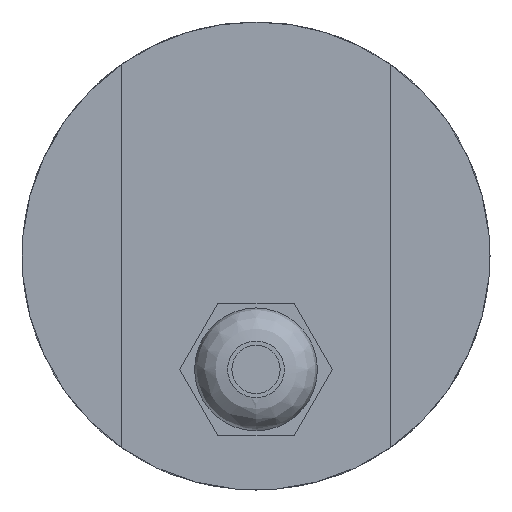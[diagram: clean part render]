
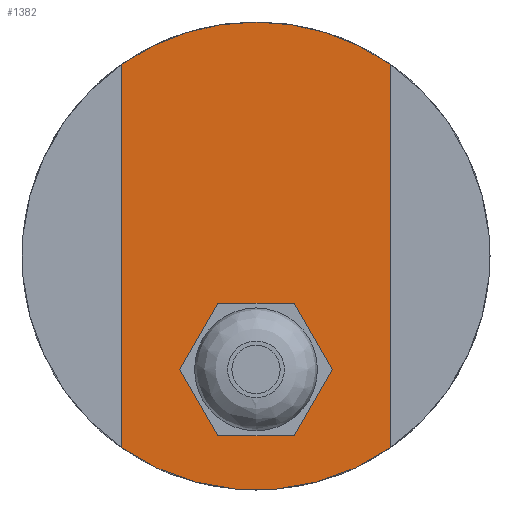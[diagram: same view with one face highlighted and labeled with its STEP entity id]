
A CAD part, left-side view. The second image highlights one B-rep face of the part: STEP entity #1382.
In plain terms, the highlighted planar face has unit normal (-1, 0, 0).
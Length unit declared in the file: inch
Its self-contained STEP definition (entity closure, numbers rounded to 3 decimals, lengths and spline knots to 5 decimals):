
#51=FACE_BOUND('',#265,.T.);
#101=PLANE('',#1530);
#177=FACE_OUTER_BOUND('',#264,.T.);
#264=EDGE_LOOP('',(#1239,#1240,#1241,#1242,#1243));
#265=EDGE_LOOP('',(#1244,#1245));
#376=LINE('',#2471,#496);
#382=LINE('',#2486,#502);
#496=VECTOR('',#1890,0.3937);
#502=VECTOR('',#1906,0.3937);
#521=CIRCLE('',#1438,0.19685);
#522=CIRCLE('',#1439,0.19685);
#558=CIRCLE('',#1515,0.975);
#560=CIRCLE('',#1517,0.975);
#562=CIRCLE('',#1519,0.975);
#604=VERTEX_POINT('',#2076);
#605=VERTEX_POINT('',#2077);
#680=VERTEX_POINT('',#2449);
#681=VERTEX_POINT('',#2451);
#684=VERTEX_POINT('',#2457);
#685=VERTEX_POINT('',#2459);
#688=VERTEX_POINT('',#2465);
#751=EDGE_CURVE('',#604,#605,#521,.T.);
#752=EDGE_CURVE('',#605,#604,#522,.T.);
#865=EDGE_CURVE('',#681,#680,#558,.T.);
#869=EDGE_CURVE('',#685,#684,#560,.T.);
#873=EDGE_CURVE('',#680,#688,#562,.T.);
#875=EDGE_CURVE('',#684,#681,#376,.T.);
#882=EDGE_CURVE('',#688,#685,#382,.T.);
#1239=ORIENTED_EDGE('',*,*,#875,.T.);
#1240=ORIENTED_EDGE('',*,*,#865,.T.);
#1241=ORIENTED_EDGE('',*,*,#873,.T.);
#1242=ORIENTED_EDGE('',*,*,#882,.T.);
#1243=ORIENTED_EDGE('',*,*,#869,.T.);
#1244=ORIENTED_EDGE('',*,*,#751,.T.);
#1245=ORIENTED_EDGE('',*,*,#752,.T.);
#1382=ADVANCED_FACE('',(#177,#51),#101,.F.);
#1438=AXIS2_PLACEMENT_3D('',#2078,#1656,#1657);
#1439=AXIS2_PLACEMENT_3D('',#2079,#1658,#1659);
#1515=AXIS2_PLACEMENT_3D('',#2452,#1871,#1872);
#1517=AXIS2_PLACEMENT_3D('',#2460,#1877,#1878);
#1519=AXIS2_PLACEMENT_3D('',#2467,#1883,#1884);
#1530=AXIS2_PLACEMENT_3D('',#2498,#1917,#1918);
#1656=DIRECTION('center_axis',(1.,0.,0.));
#1657=DIRECTION('ref_axis',(0.,-1.,0.));
#1658=DIRECTION('center_axis',(1.,0.,0.));
#1659=DIRECTION('ref_axis',(0.,-1.,0.));
#1871=DIRECTION('center_axis',(-1.,0.,0.));
#1872=DIRECTION('ref_axis',(0.,0.,-1.));
#1877=DIRECTION('center_axis',(-1.,0.,0.));
#1878=DIRECTION('ref_axis',(0.,0.,-1.));
#1883=DIRECTION('center_axis',(-1.,0.,0.));
#1884=DIRECTION('ref_axis',(0.,0.,-1.));
#1890=DIRECTION('',(0.,0.,1.));
#1906=DIRECTION('',(0.,0.,-1.));
#1917=DIRECTION('center_axis',(1.,0.,0.));
#1918=DIRECTION('ref_axis',(0.,0.,-1.));
#2076=CARTESIAN_POINT('',(-4.06,-0.19685,-0.47244));
#2077=CARTESIAN_POINT('',(-4.06,0.19685,-0.47244));
#2078=CARTESIAN_POINT('Origin',(-4.06,0.,-0.47244));
#2079=CARTESIAN_POINT('Origin',(-4.06,0.,-0.47244));
#2449=CARTESIAN_POINT('',(-4.06,0.,0.975));
#2451=CARTESIAN_POINT('',(-4.06,-0.56,0.79814));
#2452=CARTESIAN_POINT('Origin',(-4.06,0.,0.));
#2457=CARTESIAN_POINT('',(-4.06,-0.56,-0.79814));
#2459=CARTESIAN_POINT('',(-4.06,0.56,-0.79814));
#2460=CARTESIAN_POINT('Origin',(-4.06,0.,0.));
#2465=CARTESIAN_POINT('',(-4.06,0.56,0.79814));
#2467=CARTESIAN_POINT('Origin',(-4.06,0.,0.));
#2471=CARTESIAN_POINT('',(-4.06,-0.56,0.));
#2486=CARTESIAN_POINT('',(-4.06,0.56,0.));
#2498=CARTESIAN_POINT('Origin',(-4.06,0.,0.));
